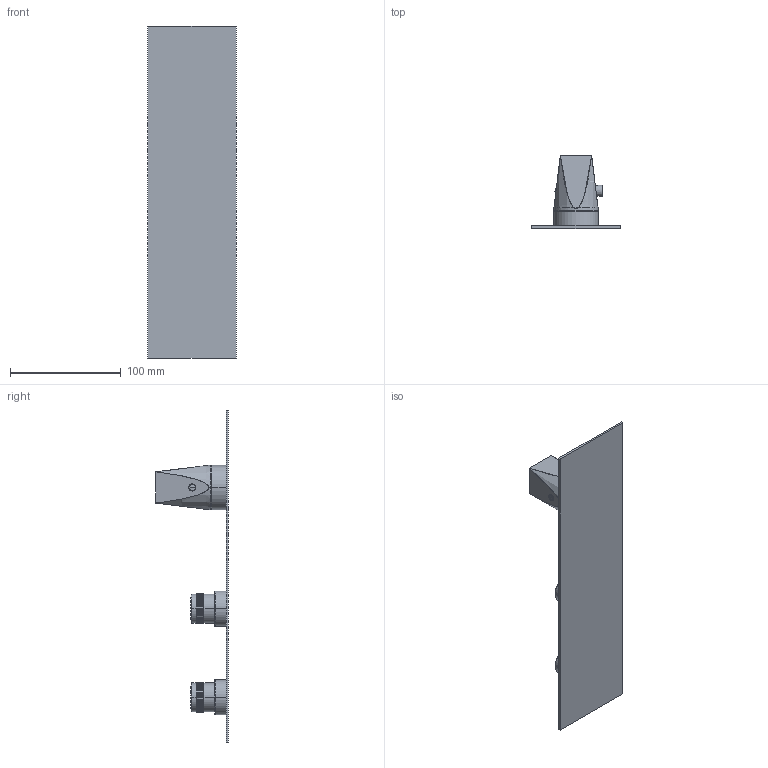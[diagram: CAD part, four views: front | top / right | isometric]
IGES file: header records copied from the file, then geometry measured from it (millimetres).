
Start section:  PTC IGES file: 49600V2.igs
Global section: file name: 49600V2.igs; native system: Creo Parametric by PTC Inc.; preprocessor: 2022014; author: carloff; organization: Unknown; date: 20230921.093142; units: millimetre
Bounding box: 80 x 65.8 x 300 mm (x, y, z)
Surface area: 70398.5 mm2 (no closed solid volume)
Topology: 0 solids, 0 shells, 3371 faces, 16776 edges, 16768 vertices
Faces by surface type: bspline 2602, revolution 769
